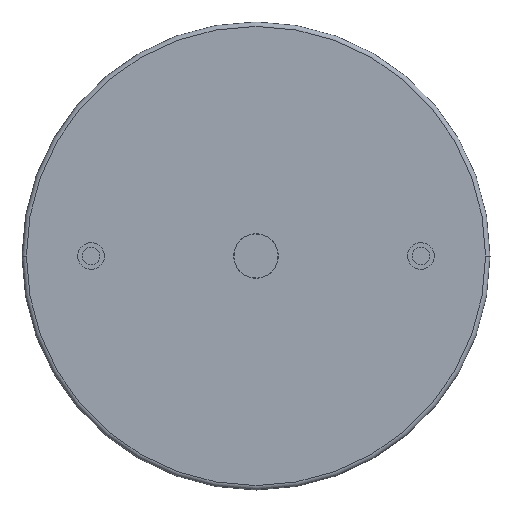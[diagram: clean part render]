
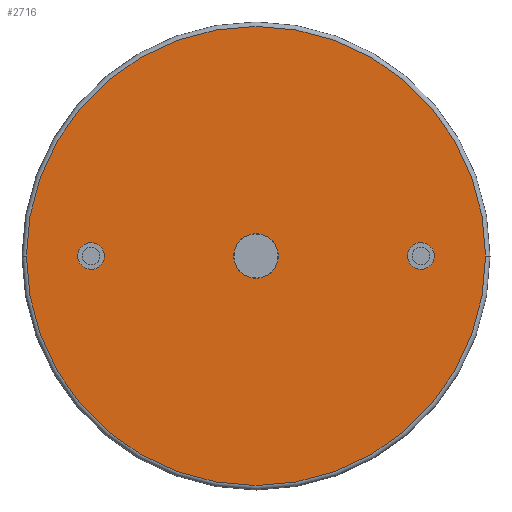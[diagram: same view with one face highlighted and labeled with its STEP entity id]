
A CAD part, front view. The second image highlights one B-rep face of the part: STEP entity #2716.
In plain terms, the highlighted planar face has unit normal (0, -1, 0).
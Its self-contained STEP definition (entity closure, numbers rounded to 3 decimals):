
#51 = DIRECTION ( 'NONE',  ( 0., 0., -1. ) ) ;
#83 = DIRECTION ( 'NONE',  ( 0., -1., 0. ) ) ;
#91 = AXIS2_PLACEMENT_3D ( 'NONE', #2019, #3765, #1405 ) ;
#122 = CARTESIAN_POINT ( 'NONE',  ( 0., 0., -79.1 ) ) ;
#143 = DIRECTION ( 'NONE',  ( 0., 0., -1. ) ) ;
#228 = CIRCLE ( 'NONE', #724, 103. ) ;
#309 = DIRECTION ( 'NONE',  ( 0., -1., 0. ) ) ;
#312 = EDGE_CURVE ( 'NONE', #693, #1117, #228, .T. ) ;
#371 = VERTEX_POINT ( 'NONE', #1930 ) ;
#412 = ORIENTED_EDGE ( 'NONE', *, *, #2291, .F. ) ;
#458 = CIRCLE ( 'NONE', #647, 103. ) ;
#522 = DIRECTION ( 'NONE',  ( 0., -1., 0. ) ) ;
#559 = EDGE_CURVE ( 'NONE', #1333, #2934, #3726, .T. ) ;
#585 = EDGE_LOOP ( 'NONE', ( #1976, #1464 ) ) ;
#647 = AXIS2_PLACEMENT_3D ( 'NONE', #2973, #3474, #2912 ) ;
#693 = VERTEX_POINT ( 'NONE', #2722 ) ;
#724 = AXIS2_PLACEMENT_3D ( 'NONE', #1145, #522, #845 ) ;
#743 = AXIS2_PLACEMENT_3D ( 'NONE', #1890, #2468, #2796 ) ;
#778 = ORIENTED_EDGE ( 'NONE', *, *, #3223, .F. ) ;
#845 = DIRECTION ( 'NONE',  ( 0., 0., -1. ) ) ;
#931 = EDGE_CURVE ( 'NONE', #1315, #2193, #3740, .T. ) ;
#944 = EDGE_CURVE ( 'NONE', #3446, #371, #2137, .T. ) ;
#991 = CARTESIAN_POINT ( 'NONE',  ( 0., 0., -74. ) ) ;
#1028 = FACE_BOUND ( 'NONE', #2208, .T. ) ;
#1115 = DIRECTION ( 'NONE',  ( 0., 0., -1. ) ) ;
#1117 = VERTEX_POINT ( 'NONE', #3011 ) ;
#1145 = CARTESIAN_POINT ( 'NONE',  ( 0., 0., 0. ) ) ;
#1248 = AXIS2_PLACEMENT_3D ( 'NONE', #991, #83, #1869 ) ;
#1275 = AXIS2_PLACEMENT_3D ( 'NONE', #3821, #2029, #3208 ) ;
#1315 = VERTEX_POINT ( 'NONE', #122 ) ;
#1333 = VERTEX_POINT ( 'NONE', #3703 ) ;
#1405 = DIRECTION ( 'NONE',  ( 0., 0., -1. ) ) ;
#1406 = CARTESIAN_POINT ( 'NONE',  ( 0., 0., 74. ) ) ;
#1433 = CARTESIAN_POINT ( 'NONE',  ( 0., 0., -5.1 ) ) ;
#1464 = ORIENTED_EDGE ( 'NONE', *, *, #1476, .F. ) ;
#1468 = ORIENTED_EDGE ( 'NONE', *, *, #931, .F. ) ;
#1476 = EDGE_CURVE ( 'NONE', #371, #3446, #3644, .T. ) ;
#1631 = CARTESIAN_POINT ( 'NONE',  ( 0., 0., -68.9 ) ) ;
#1646 = PLANE ( 'NONE',  #3180 ) ;
#1856 = ORIENTED_EDGE ( 'NONE', *, *, #2362, .T. ) ;
#1869 = DIRECTION ( 'NONE',  ( 0., 0., -1. ) ) ;
#1890 = CARTESIAN_POINT ( 'NONE',  ( 0., 0., 0. ) ) ;
#1904 = ORIENTED_EDGE ( 'NONE', *, *, #312, .T. ) ;
#1930 = CARTESIAN_POINT ( 'NONE',  ( 0., 0., 5.1 ) ) ;
#1976 = ORIENTED_EDGE ( 'NONE', *, *, #944, .F. ) ;
#2019 = CARTESIAN_POINT ( 'NONE',  ( 0., 0., -74. ) ) ;
#2029 = DIRECTION ( 'NONE',  ( 0., -1., 0. ) ) ;
#2059 = CARTESIAN_POINT ( 'NONE',  ( 0., 0., 68.9 ) ) ;
#2137 = CIRCLE ( 'NONE', #743, 5.1 ) ;
#2193 = VERTEX_POINT ( 'NONE', #1631 ) ;
#2208 = EDGE_LOOP ( 'NONE', ( #778, #2992 ) ) ;
#2233 = FACE_BOUND ( 'NONE', #2988, .T. ) ;
#2291 = EDGE_CURVE ( 'NONE', #2193, #1315, #2293, .T. ) ;
#2293 = CIRCLE ( 'NONE', #91, 5.1 ) ;
#2362 = EDGE_CURVE ( 'NONE', #1117, #693, #458, .T. ) ;
#2363 = AXIS2_PLACEMENT_3D ( 'NONE', #3003, #309, #51 ) ;
#2468 = DIRECTION ( 'NONE',  ( 0., -1., 0. ) ) ;
#2523 = FACE_BOUND ( 'NONE', #585, .T. ) ;
#2543 = CARTESIAN_POINT ( 'NONE',  ( 0., 0., 0. ) ) ;
#2716 = ADVANCED_FACE ( 'NONE', ( #2523, #1028, #2233, #3415 ), #1646, .T. ) ;
#2722 = CARTESIAN_POINT ( 'NONE',  ( 0., 0., 103. ) ) ;
#2796 = DIRECTION ( 'NONE',  ( 0., 0., -1. ) ) ;
#2834 = DIRECTION ( 'NONE',  ( 0., -1., 0. ) ) ;
#2912 = DIRECTION ( 'NONE',  ( 0., 0., -1. ) ) ;
#2934 = VERTEX_POINT ( 'NONE', #2059 ) ;
#2973 = CARTESIAN_POINT ( 'NONE',  ( 0., 0., 0. ) ) ;
#2988 = EDGE_LOOP ( 'NONE', ( #1468, #412 ) ) ;
#2992 = ORIENTED_EDGE ( 'NONE', *, *, #559, .F. ) ;
#3003 = CARTESIAN_POINT ( 'NONE',  ( 0., 0., 74. ) ) ;
#3011 = CARTESIAN_POINT ( 'NONE',  ( 0., 0., -103. ) ) ;
#3042 = AXIS2_PLACEMENT_3D ( 'NONE', #1406, #3767, #1115 ) ;
#3164 = CIRCLE ( 'NONE', #2363, 5.1 ) ;
#3180 = AXIS2_PLACEMENT_3D ( 'NONE', #2543, #2834, #143 ) ;
#3208 = DIRECTION ( 'NONE',  ( 0., 0., -1. ) ) ;
#3223 = EDGE_CURVE ( 'NONE', #2934, #1333, #3164, .T. ) ;
#3415 = FACE_OUTER_BOUND ( 'NONE', #3738, .T. ) ;
#3446 = VERTEX_POINT ( 'NONE', #1433 ) ;
#3474 = DIRECTION ( 'NONE',  ( 0., -1., 0. ) ) ;
#3644 = CIRCLE ( 'NONE', #1275, 5.1 ) ;
#3703 = CARTESIAN_POINT ( 'NONE',  ( 0., 0., 79.1 ) ) ;
#3726 = CIRCLE ( 'NONE', #3042, 5.1 ) ;
#3738 = EDGE_LOOP ( 'NONE', ( #1856, #1904 ) ) ;
#3740 = CIRCLE ( 'NONE', #1248, 5.1 ) ;
#3765 = DIRECTION ( 'NONE',  ( 0., -1., 0. ) ) ;
#3767 = DIRECTION ( 'NONE',  ( 0., -1., 0. ) ) ;
#3821 = CARTESIAN_POINT ( 'NONE',  ( 0., 0., 0. ) ) ;
